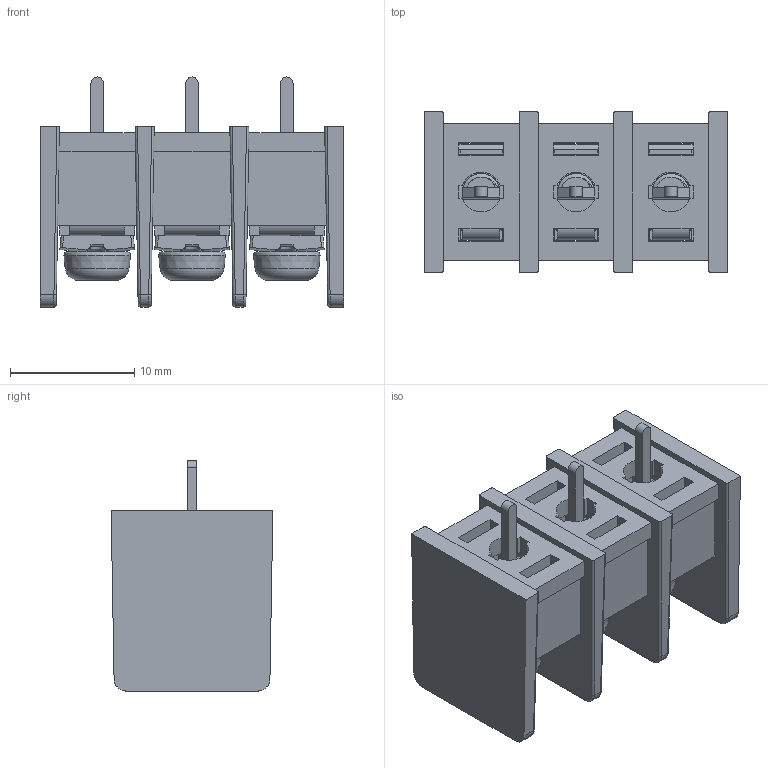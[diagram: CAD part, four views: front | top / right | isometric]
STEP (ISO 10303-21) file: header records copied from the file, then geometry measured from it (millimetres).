
FILE_DESCRIPTION((''),'2;1');
FILE_NAME('3PIN','2021-04-21T',('hanke'),(''),'CREO PARAMETRIC BY PTC INC, 2016260','CREO PARAMETRIC BY PTC INC, 2016260','');
FILE_SCHEMA(('CONFIG_CONTROL_DESIGN'));
Products named in the file (1): 3PIN
Bounding box: 24.36 x 13 x 18.5 mm (x, y, z)
Volume: 2257.3 mm3; surface area: 4021.9 mm2
Topology: 1 solids, 13 shells, 1205 faces, 3519 edges, 2265 vertices
Faces by surface type: plane 738, cylinder 251, bspline 87, torus 60, sphere 36, cone 33
Entity records: 56301 total; most frequent: CARTESIAN_POINT 25307, ORIENTED_EDGE 7026, DIRECTION 5822, EDGE_CURVE 3513, VERTEX_POINT 2265, VECTOR 2048, LINE 2048, AXIS2_PLACEMENT_3D 1887
